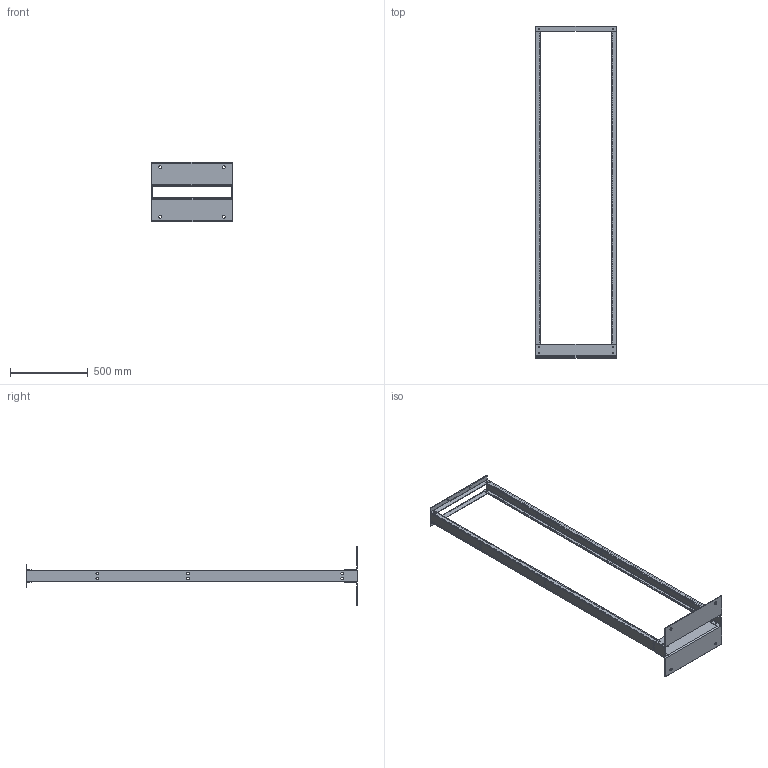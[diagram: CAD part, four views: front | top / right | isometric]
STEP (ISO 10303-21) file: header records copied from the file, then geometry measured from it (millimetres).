
FILE_DESCRIPTION (( 'STEP AP203' ), '1' );
FILE_NAME ('ewr19fm45u.STEP', '2018-03-01T19:52:10', ( '' ), ( '' ), 'SwSTEP 2.0', 'SolidWorks 2014', '' );
FILE_SCHEMA (( 'CONFIG_CONTROL_DESIGN' ));
Length unit declared in the file: inch
Products named in the file (4): 89160360_87949182; 89160359_87949172; 89160358_87949185; ewr19fm45u
Assembly tree (6 placements, depth 2):
  ewr19fm45u
    89160360_87949182  x2
    89160359_87949172  x2
    89160358_87949185  x2
Bounding box: 515.16 x 2133.6 x 381 mm (x, y, z)
Volume: 4016771.8 mm3; surface area: 1799168.7 mm2
Topology: 6 solids, 6 shells, 1240 faces, 3684 edges, 2456 vertices
Faces by surface type: cylinder 1184, plane 56
Entity records: 23196 total; most frequent: DIRECTION 4284, CARTESIAN_POINT 3699, ORIENTED_EDGE 3684, EDGE_CURVE 1842, AXIS2_PLACEMENT_3D 1813, VERTEX_POINT 1228, EDGE_LOOP 1204, CIRCLE 1184
